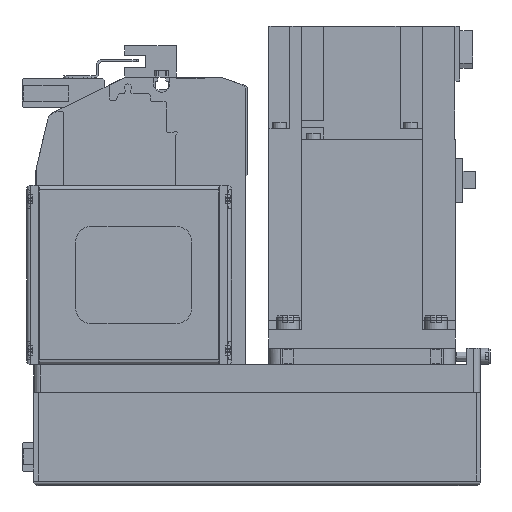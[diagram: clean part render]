
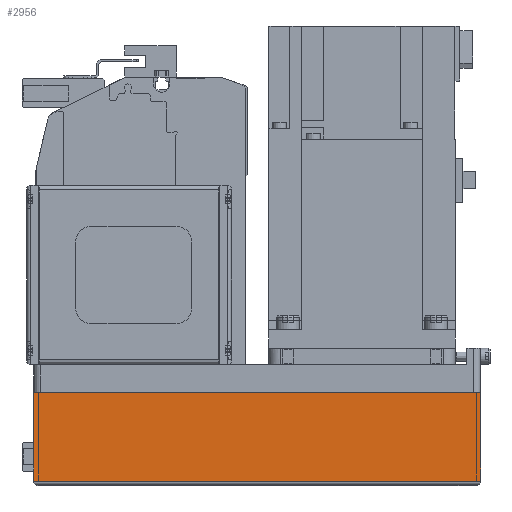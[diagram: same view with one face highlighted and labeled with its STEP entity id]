
A CAD part, left-side view. The second image highlights one B-rep face of the part: STEP entity #2956.
In plain terms, the highlighted planar face has unit normal (-1, 0, 0) as drawn and (0, 1, 0) by its records, which use the part's own axes.
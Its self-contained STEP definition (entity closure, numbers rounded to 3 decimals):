
#2956 = ADVANCED_FACE( '', ( #6382 ), #6383, .T. );
#6382 = FACE_OUTER_BOUND( '', #10186, .T. );
#6383 = PLANE( '', #10187 );
#10186 = EDGE_LOOP( '', ( #18448, #18449, #18450, #18451 ) );
#10187 = AXIS2_PLACEMENT_3D( '', #18452, #18453, #18454 );
#18448 = ORIENTED_EDGE( '', *, *, #24551, .F. );
#18449 = ORIENTED_EDGE( '', *, *, #24060, .F. );
#18450 = ORIENTED_EDGE( '', *, *, #24148, .T. );
#18451 = ORIENTED_EDGE( '', *, *, #22773, .T. );
#18452 = CARTESIAN_POINT( '', ( -192., 40., -50. ) );
#18453 = DIRECTION( '', ( 0., 1., 0. ) );
#18454 = DIRECTION( '', ( 0., 0., 1. ) );
#22773 = EDGE_CURVE( '', #27733, #27731, #27734, .T. );
#24060 = EDGE_CURVE( '', #29623, #29626, #29627, .T. );
#24148 = EDGE_CURVE( '', #29623, #27733, #29746, .T. );
#24551 = EDGE_CURVE( '', #29626, #27731, #30253, .T. );
#27731 = VERTEX_POINT( '', #34889 );
#27733 = VERTEX_POINT( '', #34892 );
#27734 = LINE( '', #34893, #34894 );
#29623 = VERTEX_POINT( '', #38163 );
#29626 = VERTEX_POINT( '', #38166 );
#29627 = LINE( '', #38167, #38168 );
#29746 = LINE( '', #38342, #38343 );
#30253 = LINE( '', #39126, #39127 );
#34889 = CARTESIAN_POINT( '', ( 0., 40., -12.1 ) );
#34892 = CARTESIAN_POINT( '', ( -192., 40., -12.1 ) );
#34893 = CARTESIAN_POINT( '', ( -192., 40., -12.1 ) );
#34894 = VECTOR( '', #41946, 1000. );
#38163 = CARTESIAN_POINT( '', ( -192., 40., -50. ) );
#38166 = CARTESIAN_POINT( '', ( 0., 40., -50. ) );
#38167 = CARTESIAN_POINT( '', ( -192., 40., -50. ) );
#38168 = VECTOR( '', #43433, 1000. );
#38342 = CARTESIAN_POINT( '', ( -192., 40., -50. ) );
#38343 = VECTOR( '', #43550, 1000. );
#39126 = CARTESIAN_POINT( '', ( 0., 40., -50. ) );
#39127 = VECTOR( '', #43933, 1000. );
#41946 = DIRECTION( '', ( 1., 0., 0. ) );
#43433 = DIRECTION( '', ( 1., 0., 0. ) );
#43550 = DIRECTION( '', ( 0., 0., 1. ) );
#43933 = DIRECTION( '', ( 0., 0., 1. ) );
